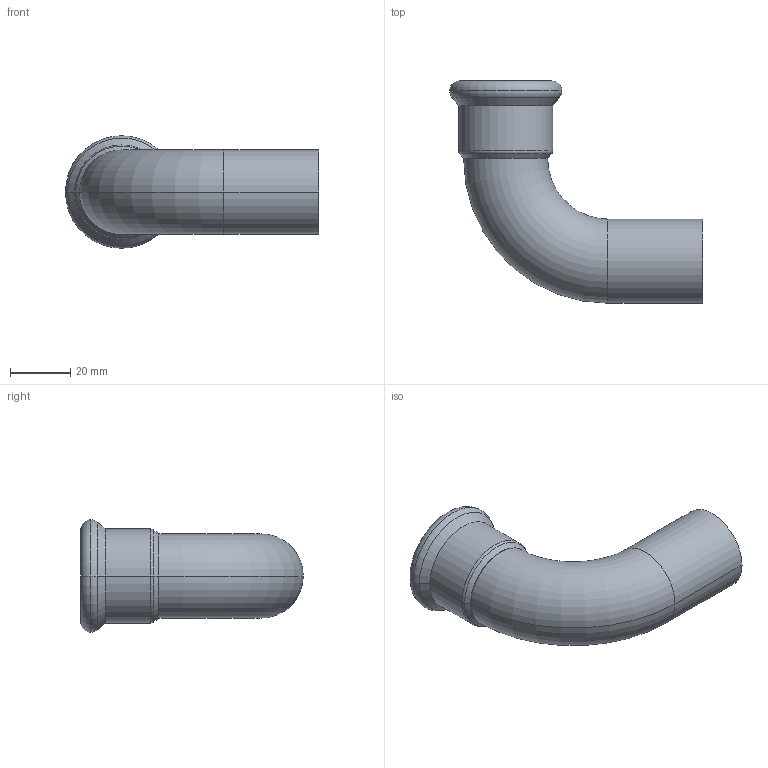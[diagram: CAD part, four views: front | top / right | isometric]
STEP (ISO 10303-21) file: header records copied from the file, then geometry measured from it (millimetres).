
FILE_DESCRIPTION(('CoCreate Modeling STEP Export'),'2;1');
FILE_NAME('C1411 28x28.stp','2014-11-07T16:54:56',(''),(''),'CoCreate Modeling STEP processor for AP214 (Solid Model)','CoCreate Modeling 17.00A 17-Jun-2010 (C) Parametric Technology GmbH','');
FILE_SCHEMA(('AUTOMOTIVE_DESIGN { 1 0 10303 214 1 1 1 1 }'));
Length unit declared in the file: millimetre
Products named in the file (2): C1411_28x28
Assembly tree (1 placements, depth 2):
  C1411_28x28
    C1411_28x28
Bounding box: 84.22 x 74 x 37.45 mm (x, y, z)
Volume: 16290.5 mm3; surface area: 19895.3 mm2
Topology: 1 solids, 1 shells, 32 faces, 68 edges, 40 vertices
Faces by surface type: cylinder 14, torus 10, cone 4, plane 4
Entity records: 748 total; most frequent: ORIENTED_EDGE 136, DIRECTION 116, CARTESIAN_POINT 107, EDGE_CURVE 68, AXIS2_PLACEMENT_3D 49, VERTEX_POINT 40, EDGE_LOOP 36, FACE_OUTER_BOUND 32
